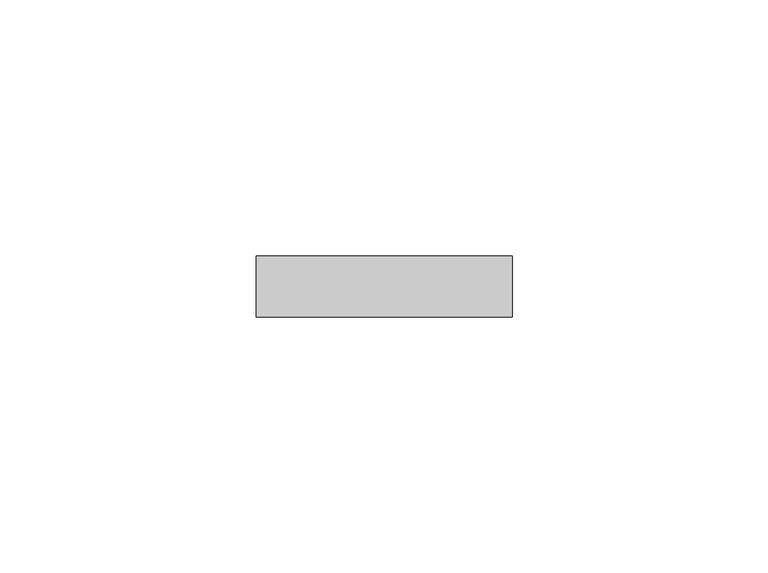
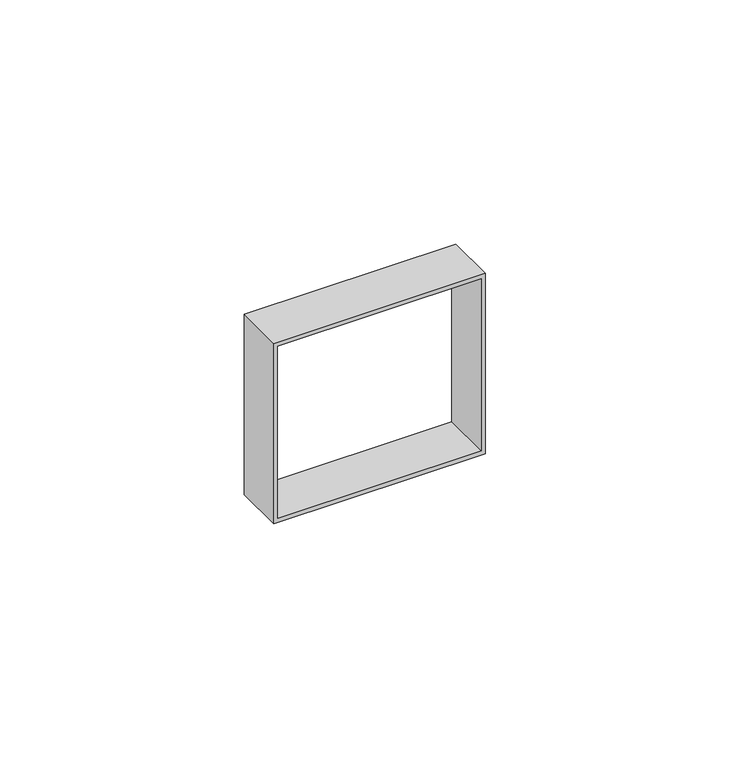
"""IFC4 building model written with IfcOpenShell, lengths in millimetres: proxy geometry, Суппорт для монтажа ЭУИ серии Viva на DIN-рейку или монтажную плату_DKC : 2 модуля."""

import ifcopenshell
import ifcopenshell.guid

model = None  # the IFC model being written
_history = None  # IfcOwnerHistory: only IFC2X3 demands one
_inside = {}  # id of a spatial element -> (the spatial element, [elements in it])
_under = {}  # id of a project, library or spatial element -> (it, [spatial elements below it])
_declared = {}  # id of a project -> (the project, [libraries it declares])
_typed = {}  # id of a type object -> (the type object, [elements of that type])
_made_of = {}  # id of a material, layer set ... -> (it, [elements and type objects made of it])


def new_model(schema):
    """Start an empty IFC model of exactly this schema.

    Asked for "IFC4X3", IfcOpenShell would pick the latest addendum, in which some entities
    have other attributes; the version numbers below select the first issue.
    IFC2X3 requires an IfcOwnerHistory on every rooted entity: one is made here for all.
    """
    global model, _history
    if schema == "IFC4X3":
        model = ifcopenshell.file(schema_version=(4, 3, 0, 0))
    else:
        model = ifcopenshell.file(schema=schema)
    _inside.clear()
    _under.clear()
    _declared.clear()
    _typed.clear()
    _made_of.clear()
    _history = None
    if model.schema == "IFC2X3":
        org = make("IfcOrganization", Name="unknown")
        user = make(
            "IfcPersonAndOrganization",
            ThePerson=make("IfcPerson", FamilyName="unknown"),
            TheOrganization=org,
        )
        app = make(
            "IfcApplication",
            ApplicationDeveloper=org,
            Version="unknown",
            ApplicationFullName="unknown",
            ApplicationIdentifier="unknown",
        )
        _history = make(
            "IfcOwnerHistory",
            OwningUser=user,
            OwningApplication=app,
            ChangeAction="ADDED",
            CreationDate=0,
        )
    return model


def make(cls, **values):
    """One entity of the class cls with the attributes given. An attribute that is None is left unset."""
    return model.create_entity(
        cls, **{name: value for name, value in values.items() if value is not None}
    )


def rooted(cls, **values):
    """An entity with a GlobalId (a new one), such as an element, a storey or a relation."""
    return make(cls, GlobalId=ifcopenshell.guid.new(), OwnerHistory=_history, **values)


def si_unit(unit_type, name, prefix=None):
    """IfcSIUnit, for example si_unit("LENGTHUNIT", "METRE", prefix="MILLI")."""
    return make("IfcSIUnit", UnitType=unit_type, Prefix=prefix, Name=name)


def assignment(units):
    """IfcUnitAssignment: the units of a project."""
    return None if units is None else make("IfcUnitAssignment", Units=units)


def point(xyz):
    """IfcCartesianPoint."""
    return None if xyz is None else make("IfcCartesianPoint", Coordinates=xyz)


def direction(xyz):
    """IfcDirection."""
    return None if xyz is None else make("IfcDirection", DirectionRatios=xyz)


def frame(location, z_axis=None, x_axis=None):
    """IfcAxis2Placement3D, a coordinate frame: its origin and axes. An axis left out is left unset."""
    return make(
        "IfcAxis2Placement3D",
        Location=point(location),
        Axis=direction(z_axis),
        RefDirection=direction(x_axis),
    )


def origin():
    """The frame at (0, 0, 0) with its axes left unset."""
    return frame((0.0, 0.0, 0.0))


def place(relative_to, where):
    """IfcLocalPlacement: puts the frame where relative to a parent placement (None: the world)."""
    return make(
        "IfcLocalPlacement", PlacementRelTo=relative_to, RelativePlacement=where
    )


def context(
    kind, dimensions, precision=None, world=None, true_north=None, identifier=None
):
    """IfcGeometricRepresentationContext, for example the 3D "Model" context."""
    return make(
        "IfcGeometricRepresentationContext",
        ContextIdentifier=identifier,
        ContextType=kind,
        CoordinateSpaceDimension=dimensions,
        Precision=precision,
        WorldCoordinateSystem=world,
        TrueNorth=true_north,
    )


def project(units=None, contexts=None):
    """IfcProject with its units and contexts."""
    return rooted(
        "IfcProject",
        Name="project",
        RepresentationContexts=contexts,
        UnitsInContext=assignment(units),
    )


def spatial(cls, under=None, at=None, **own):
    """A site, building, storey or space (cls), placed at a placement, below another one or the project."""
    s = rooted(cls, ObjectPlacement=at, **own)
    if under is not None:
        _under.setdefault(under.id(), (under, []))[1].append(s)
    return s


def polyline(points):
    """IfcPolyline through the points."""
    return make("IfcPolyline", Points=[point(p) for p in points])


def outline(outer, holes=None, kind="AREA"):
    """IfcArbitraryClosedProfileDef: a profile drawn as a closed curve; with holes, ...WithVoids."""
    if holes is None:
        return make("IfcArbitraryClosedProfileDef", ProfileType=kind, OuterCurve=outer)
    return make(
        "IfcArbitraryProfileDefWithVoids",
        ProfileType=kind,
        OuterCurve=outer,
        InnerCurves=holes,
    )


def extrude(swept, where, along, depth):
    """IfcExtrudedAreaSolid: the profile swept, set in the frame where, extruded along a direction by depth."""
    return make(
        "IfcExtrudedAreaSolid",
        SweptArea=swept,
        Position=where,
        ExtrudedDirection=direction(along),
        Depth=depth,
    )


def shape(context_of_items, identifier, shape_type, items):
    """IfcShapeRepresentation: the items that make up one representation, for example the "Body"."""
    return make(
        "IfcShapeRepresentation",
        ContextOfItems=context_of_items,
        RepresentationIdentifier=identifier,
        RepresentationType=shape_type,
        Items=items,
    )


def source(mapping_origin, context_of_items, identifier, shape_type, items):
    """IfcRepresentationMap: a shape defined once, which mapped items show again and again."""
    return make(
        "IfcRepresentationMap",
        MappingOrigin=mapping_origin,
        MappedRepresentation=shape(context_of_items, identifier, shape_type, items),
    )


def transform(
    local_origin,
    x_axis=None,
    y_axis=None,
    z_axis=None,
    scale=None,
    scale2=None,
    scale3=None,
    uniform=True,
):
    """IfcCartesianTransformationOperator3D, or its non-uniform kind. x_axis, y_axis, z_axis: its Axis1, 2, 3."""
    if uniform:
        return make(
            "IfcCartesianTransformationOperator3D",
            Axis1=direction(x_axis),
            Axis2=direction(y_axis),
            LocalOrigin=point(local_origin),
            Scale=scale,
            Axis3=direction(z_axis),
        )
    return make(
        "IfcCartesianTransformationOperator3DnonUniform",
        Axis1=direction(x_axis),
        Axis2=direction(y_axis),
        LocalOrigin=point(local_origin),
        Scale=scale,
        Axis3=direction(z_axis),
        Scale2=scale2,
        Scale3=scale3,
    )


def mapped(mapping_source, mapping_target):
    """IfcMappedItem: shows the shape of a source again, moved by a transform."""
    return make(
        "IfcMappedItem", MappingSource=mapping_source, MappingTarget=mapping_target
    )


def made_of(thing, what):
    """Note that an element or type object is made of a material, layer set ...; save() writes the relation."""
    if what is not None:
        _made_of.setdefault(what.id(), (what, []))[1].append(thing)
    return thing


def element(
    cls,
    number,
    at=None,
    inside=None,
    cuts=None,
    type_object=None,
    material=None,
    context=None,
    identifier="Body",
    shape_type=None,
    held_by="IfcProductDefinitionShape",
    body=None,
    shapes=None,
    **own,
):
    """One element of the class cls, such as IfcWall. Its Tag is "e" and its number.

    at: its placement. inside: the storey or other place that contains it. cuts: it is an
    opening in that element (IfcRelVoidsElement). A single representation is given by context,
    identifier, shape_type and body (its items); several are given by shapes. held_by: the class
    of the entity that holds the representations. save() writes the other relations.
    """
    e = rooted(cls, Tag="e%d" % number, ObjectPlacement=at, **own)
    if body is not None:
        shapes = [shape(context, identifier, shape_type, body)]
    if shapes is not None:
        e.Representation = make(held_by, Representations=shapes)
    if inside is not None:
        _inside.setdefault(inside.id(), (inside, []))[1].append(e)
    if cuts is not None:
        rooted(
            "IfcRelVoidsElement", RelatingBuildingElement=cuts, RelatedOpeningElement=e
        )
    if type_object is not None:
        _typed.setdefault(type_object.id(), (type_object, []))[1].append(e)
    return made_of(e, material)


def aggregate(whole, parts):
    """IfcRelAggregates: a whole, such as a stair, and the parts it consists of."""
    return rooted("IfcRelAggregates", RelatingObject=whole, RelatedObjects=parts)


def save(model, path):
    """Write the relations noted so far, then the file.

    IfcRelAggregates (storeys below a building ...), IfcRelContainedInSpatialStructure (elements
    in a storey), IfcRelDefinesByType, IfcRelAssociatesMaterial and IfcRelDeclares: one each for
    every whole, place, type object, material and project.
    """
    for whole, parts in _under.values():
        aggregate(whole, parts)
    for where, things in _inside.values():
        rooted(
            "IfcRelContainedInSpatialStructure",
            RelatedElements=things,
            RelatingStructure=where,
        )
    for kind, things in _typed.values():
        rooted("IfcRelDefinesByType", RelatedObjects=things, RelatingType=kind)
    for what, things in _made_of.values():
        rooted("IfcRelAssociatesMaterial", RelatedObjects=things, RelatingMaterial=what)
    for by, libraries in _declared.values():
        rooted("IfcRelDeclares", RelatingContext=by, RelatedDefinitions=libraries)
    model.write(path)


def electrical_fixtures_41765ffb(model_context):
    return source(origin(), model_context, "Body", "SweptSolid", [
        extrude(outline(polyline([(22.5, 25.0), (22.5, -25.0), (-22.5, -25.0), (-22.5, 25.0), (22.5, 25.0)]), holes=[polyline([(21.5, 24.0), (-21.5, 24.0), (-21.5, -24.0), (21.5, -24.0), (21.5, 24.0)])]), frame((0.0, 0.0, 0.0), z_axis=(0.0, 1.0, 0.0), x_axis=(0.0, 0.0, 1.0)), (0.0, 0.0, 1.0), 12.0),
    ])


if __name__ == "__main__":
    model = new_model("IFC4")
    model_context = context("Model", 3, world=origin())
    ifc_project = project(units=[si_unit("LENGTHUNIT", "METRE", prefix="MILLI")], contexts=[model_context])
    site = spatial("IfcSite", under=ifc_project)
    building = spatial("IfcBuilding", under=site)
    placement = place(None, origin())
    electrical_fixtures_shape = electrical_fixtures_41765ffb(model_context)
    element("IfcBuildingElementProxy", 1, Name="Суппорт для монтажа ЭУИ серии Viva на DIN-рейку или монтажную плату_DKC : 2 модуля", ObjectType="Суппорт для монтажа ЭУИ серии Viva на DIN-рейку или монтажную плату_DKC : 2 модуля", at=placement, inside=building, context=model_context, shape_type="MappedRepresentation", body=[
        mapped(electrical_fixtures_shape, transform((0.0, 0.0, 0.0), x_axis=(1.0, 0.0, 0.0), y_axis=(0.0, 1.0, 0.0), z_axis=(0.0, 0.0, 1.0))),
    ])
    save(model, "model.ifc")
